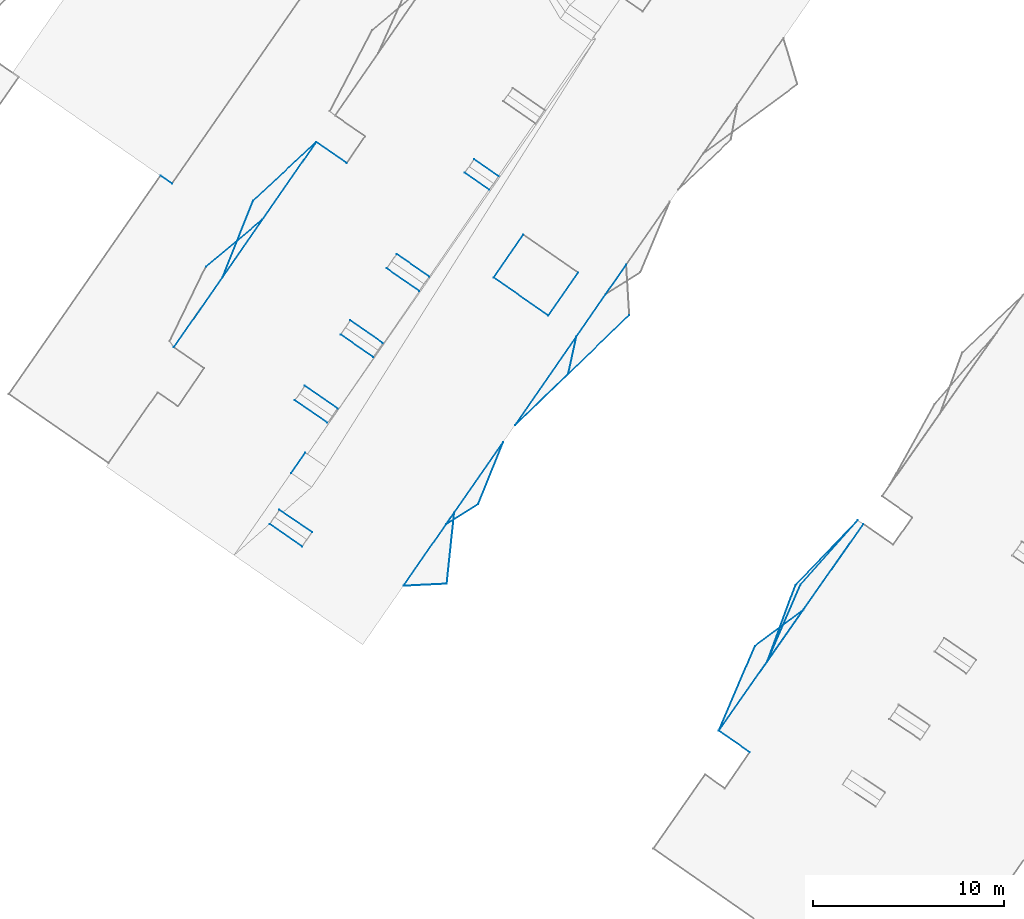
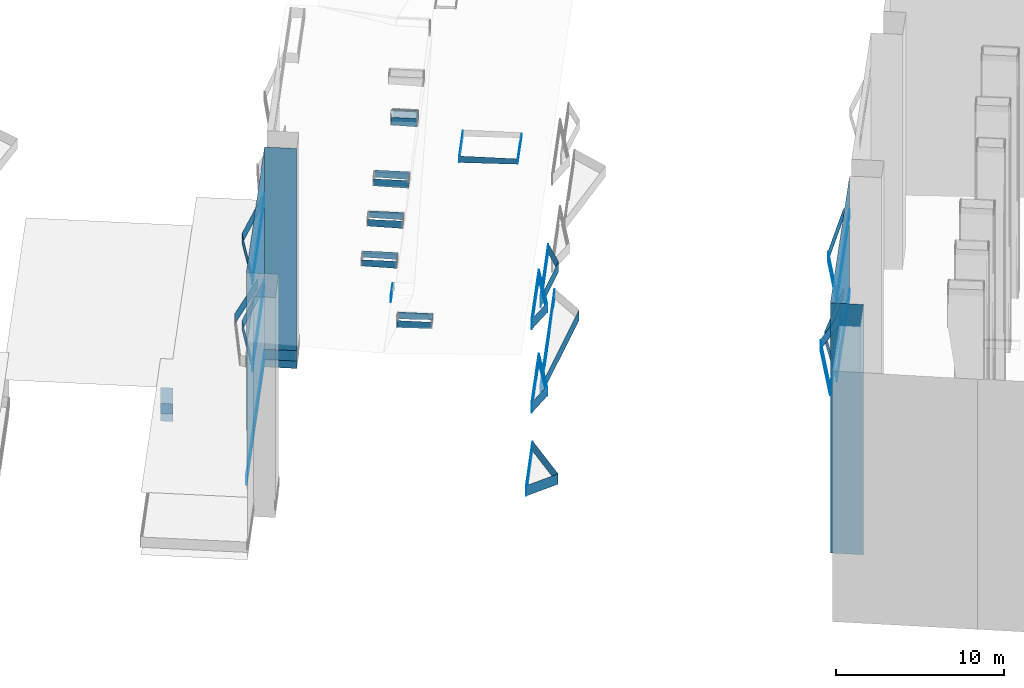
# Not in any storey, part 3 of 136: 90 walls.
"""IFC4 building model written with IfcOpenShell, lengths in metres."""

from ifc_helpers import new_model, entity, si_unit, converted_unit, frame, origin, place, context, subcontext, project, spatial, face_set, surface_model, element, save


model = new_model("IFC4")

# Units and contexts
model_context = context("Model", 3, precision=1e-05, world=origin())
body_context = subcontext(model_context, "Body", "Model", "MODEL_VIEW")
ifc_project = project(units=[converted_unit("PLANEANGLEUNIT", "DEGREE", entity("IfcRatioMeasure", 0.0174532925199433), si_unit("PLANEANGLEUNIT", "RADIAN"), dimensions=[0, 0, 0, 0, 0, 0, 0]), si_unit("AREAUNIT", "SQUARE_METRE"), si_unit("LENGTHUNIT", "METRE")], contexts=[model_context])

# Site, building
site_placement = place(None, origin())
site = spatial("IfcSite", under=ifc_project, at=site_placement, Name="_site")
building_1_placement = place(site_placement, origin())
building_1 = spatial("IfcBuilding", under=site, at=building_1_placement, Name="_building")

# Walls
wall_1_placement = place(building_1_placement, origin())
element("IfcWall", 1, at=wall_1_placement, inside=building_1, Name="Wall", PredefinedType="NOTDEFINED", context=body_context, shape_type="SurfaceModel", body=[
    surface_model("IfcFaceBasedSurfaceModel", [(4.31, 32.83, 47.18), (-0.12, 26.5, 47.18), (-0.12, 26.5, 47.93), (4.31, 32.83, 47.93)], [face_set([[[0, 1, 2, 3]]])]),
])
wall_2_placement = place(building_1_placement, origin())
element("IfcWall", 2, at=wall_2_placement, inside=building_1, Name="Wall", PredefinedType="NOTDEFINED", context=body_context, shape_type="SurfaceModel", body=[
    surface_model("IfcFaceBasedSurfaceModel", [(-0.12, 26.5, 47.18), (1.77, 30.93, 47.18), (1.77, 30.93, 47.93), (-0.12, 26.5, 47.93)], [face_set([[[0, 1, 2, 3]]])]),
])
wall_3_placement = place(building_1_placement, origin())
element("IfcWall", 3, at=wall_3_placement, inside=building_1, Name="Wall", PredefinedType="NOTDEFINED", context=body_context, shape_type="SurfaceModel", body=[
    surface_model("IfcFaceBasedSurfaceModel", [(2.41, 30.12, 45.09), (3.89, 34.12, 45.09), (3.89, 34.12, 45.84), (2.41, 30.12, 45.84)], [face_set([[[0, 1, 2, 3]]])]),
])
wall_4_placement = place(building_1_placement, origin())
element("IfcWall", 4, at=wall_4_placement, inside=building_1, Name="Wall", PredefinedType="NOTDEFINED", context=body_context, shape_type="SurfaceModel", body=[
    surface_model("IfcFaceBasedSurfaceModel", [(7.44, 37.311, 45.09), (2.41, 30.12, 45.09), (2.41, 30.12, 45.84), (7.44, 37.311, 45.84)], [face_set([[[0, 1, 2, 3]]])]),
])
wall_5_placement = place(building_1_placement, origin())
element("IfcWall", 5, at=wall_5_placement, inside=building_1, Name="Wall", PredefinedType="NOTDEFINED", context=body_context, shape_type="SurfaceModel", body=[
    surface_model("IfcFaceBasedSurfaceModel", [(3.89, 34.12, 45.09), (7.15, 37.51, 45.09), (7.15, 37.51, 45.84), (3.89, 34.12, 45.84)], [face_set([[[0, 1, 2, 3]]])]),
])
wall_6_placement = place(building_1_placement, origin())
element("IfcWall", 6, at=wall_6_placement, inside=building_1, Name="Wall", PredefinedType="NOTDEFINED", context=body_context, shape_type="SurfaceModel", body=[
    surface_model("IfcFaceBasedSurfaceModel", [(2.41, 30.12, 45.09), (3.89, 34.12, 45.09), (3.89, 34.12, 45.84), (2.41, 30.12, 45.84)], [face_set([[[0, 1, 2, 3]]])]),
])
wall_7_placement = place(building_1_placement, origin())
element("IfcWall", 7, at=wall_7_placement, inside=building_1, Name="Wall", PredefinedType="NOTDEFINED", context=body_context, shape_type="SurfaceModel", body=[
    surface_model("IfcFaceBasedSurfaceModel", [(7.44, 37.311, 45.09), (2.41, 30.12, 45.09), (2.41, 30.12, 45.84), (7.44, 37.311, 45.84)], [face_set([[[0, 1, 2, 3]]])]),
])
wall_8_placement = place(building_1_placement, origin())
element("IfcWall", 8, at=wall_8_placement, inside=building_1, Name="Wall", PredefinedType="NOTDEFINED", context=body_context, shape_type="SurfaceModel", body=[
    surface_model("IfcFaceBasedSurfaceModel", [(3.89, 34.12, 45.09), (7.15, 37.51, 45.09), (7.15, 37.51, 45.84), (3.89, 34.12, 45.84)], [face_set([[[0, 1, 2, 3]]])]),
])
wall_9_placement = place(building_1_placement, origin())
element("IfcWall", 9, at=wall_9_placement, inside=building_1, Name="Wall", PredefinedType="NOTDEFINED", context=body_context, shape_type="SurfaceModel", body=[
    surface_model("IfcFaceBasedSurfaceModel", [(-0.12, 26.5, 53.93), (7.44, 37.311, 53.93), (7.44, 37.311, 35.839), (-0.12, 26.5, 35.784)], [face_set([[[0, 1, 2, 3]]])]),
])
wall_10_placement = place(building_1_placement, origin())
element("IfcWall", 10, at=wall_10_placement, inside=building_1, Name="Wall", PredefinedType="NOTDEFINED", context=body_context, shape_type="SurfaceModel", body=[
    surface_model("IfcFaceBasedSurfaceModel", [(1.5, 25.37, 53.93), (-0.12, 26.5, 53.93), (-0.12, 26.5, 35.784), (1.5, 25.37, 35.775)], [face_set([[[0, 1, 2, 3]]])]),
])
wall_11_placement = place(building_1_placement, origin())
element("IfcWall", 11, at=wall_11_placement, inside=building_1, Name="Wall", PredefinedType="NOTDEFINED", context=body_context, shape_type="SurfaceModel", body=[
    surface_model("IfcFaceBasedSurfaceModel", [(4.31, 32.83, 47.18), (-0.12, 26.5, 47.18), (-0.12, 26.5, 47.93), (4.31, 32.83, 47.93)], [face_set([[[0, 1, 2, 3]]])]),
])
wall_12_placement = place(building_1_placement, origin())
element("IfcWall", 12, at=wall_12_placement, inside=building_1, Name="Wall", PredefinedType="NOTDEFINED", context=body_context, shape_type="SurfaceModel", body=[
    surface_model("IfcFaceBasedSurfaceModel", [(1.77, 30.93, 47.18), (4.31, 32.83, 47.18), (4.31, 32.83, 47.93), (1.77, 30.93, 47.93)], [face_set([[[0, 1, 2, 3]]])]),
])
wall_13_placement = place(building_1_placement, origin())
element("IfcWall", 13, at=wall_13_placement, inside=building_1, Name="Wall", PredefinedType="NOTDEFINED", context=body_context, shape_type="SurfaceModel", body=[
    surface_model("IfcFaceBasedSurfaceModel", [(-0.12, 26.5, 47.18), (1.77, 30.93, 47.18), (1.77, 30.93, 47.93), (-0.12, 26.5, 47.93)], [face_set([[[0, 1, 2, 3]]])]),
])
wall_14_placement = place(building_1_placement, origin())
element("IfcWall", 14, at=wall_14_placement, inside=building_1, Name="Wall", PredefinedType="NOTDEFINED", context=body_context, shape_type="SurfaceModel", body=[
    surface_model("IfcFaceBasedSurfaceModel", [(1.77, 30.93, 47.18), (4.31, 32.83, 47.18), (4.31, 32.83, 47.93), (1.77, 30.93, 47.93)], [face_set([[[0, 1, 2, 3]]])]),
])
wall_15_placement = place(building_1_placement, origin())
element("IfcWall", 15, at=wall_15_placement, inside=building_1, Name="Wall", PredefinedType="NOTDEFINED", context=body_context, shape_type="SurfaceModel", body=[
    surface_model("IfcFaceBasedSurfaceModel", [(2.41, 30.12, 50.84), (4.15, 34.14, 50.84), (4.15, 34.14, 51.59), (2.41, 30.12, 51.59)], [face_set([[[0, 1, 2, 3]]])]),
])
wall_16_placement = place(building_1_placement, origin())
element("IfcWall", 16, at=wall_16_placement, inside=building_1, Name="Wall", PredefinedType="NOTDEFINED", context=body_context, shape_type="SurfaceModel", body=[
    surface_model("IfcFaceBasedSurfaceModel", [(7.44, 37.311, 50.84), (2.41, 30.12, 50.84), (2.41, 30.12, 51.59), (7.44, 37.311, 51.59)], [face_set([[[0, 1, 2, 3]]])]),
])
wall_17_placement = place(building_1_placement, origin())
element("IfcWall", 17, at=wall_17_placement, inside=building_1, Name="Wall", PredefinedType="NOTDEFINED", context=body_context, shape_type="SurfaceModel", body=[
    surface_model("IfcFaceBasedSurfaceModel", [(4.15, 34.14, 50.84), (7.15, 37.51, 50.84), (7.15, 37.51, 51.59), (4.15, 34.14, 51.59)], [face_set([[[0, 1, 2, 3]]])]),
])
wall_18_placement = place(building_1_placement, origin())
element("IfcWall", 18, at=wall_18_placement, inside=building_1, Name="Wall", PredefinedType="NOTDEFINED", context=body_context, shape_type="SurfaceModel", body=[
    surface_model("IfcFaceBasedSurfaceModel", [(2.41, 30.12, 50.84), (4.15, 34.14, 50.84), (4.15, 34.14, 51.59), (2.41, 30.12, 51.59)], [face_set([[[0, 1, 2, 3]]])]),
])
wall_19_placement = place(building_1_placement, origin())
element("IfcWall", 19, at=wall_19_placement, inside=building_1, Name="Wall", PredefinedType="NOTDEFINED", context=body_context, shape_type="SurfaceModel", body=[
    surface_model("IfcFaceBasedSurfaceModel", [(7.44, 37.311, 50.84), (2.41, 30.12, 50.84), (2.41, 30.12, 51.59), (7.44, 37.311, 51.59)], [face_set([[[0, 1, 2, 3]]])]),
])
wall_20_placement = place(building_1_placement, origin())
element("IfcWall", 20, at=wall_20_placement, inside=building_1, Name="Wall", PredefinedType="NOTDEFINED", context=body_context, shape_type="SurfaceModel", body=[
    surface_model("IfcFaceBasedSurfaceModel", [(4.15, 34.14, 50.84), (7.15, 37.51, 50.84), (7.15, 37.51, 51.59), (4.15, 34.14, 51.59)], [face_set([[[0, 1, 2, 3]]])]),
])

# Building
building_2_placement = place(site_placement, origin())
building_2 = spatial("IfcBuilding", under=site, at=building_2_placement, Name="_building")

# Walls
wall_21_placement = place(building_2_placement, origin())
element("IfcWall", 21, at=wall_21_placement, inside=building_2, Name="Wall", PredefinedType="NOTDEFINED", context=body_context, shape_type="SurfaceModel", body=[
    surface_model("IfcFaceBasedSurfaceModel", [(-14.38, 37.3, 50.44), (-13.96, 37.91, 50.44), (-13.96, 37.91, 51.19), (-14.38, 37.3, 51.19)], [face_set([[[0, 1, 2, 3]]])]),
])
wall_22_placement = place(building_2_placement, origin())
element("IfcWall", 22, at=wall_22_placement, inside=building_2, Name="Wall", PredefinedType="NOTDEFINED", context=body_context, shape_type="SurfaceModel", body=[
    surface_model("IfcFaceBasedSurfaceModel", [(-12.71, 38.351, 50.44), (-14.38, 37.3, 50.44), (-14.38, 37.3, 51.19), (-12.71, 38.351, 51.19)], [face_set([[[0, 1, 2, 3]]])]),
])
wall_23_placement = place(building_2_placement, origin())
element("IfcWall", 23, at=wall_23_placement, inside=building_2, Name="Wall", PredefinedType="NOTDEFINED", context=body_context, shape_type="SurfaceModel", body=[
    surface_model("IfcFaceBasedSurfaceModel", [(-11.4, 41.59, 50.44), (-12.71, 38.351, 50.44), (-12.71, 38.351, 51.19), (-11.4, 41.59, 51.19)], [face_set([[[0, 1, 2, 3]]])]),
])
wall_24_placement = place(building_2_placement, origin())
element("IfcWall", 24, at=wall_24_placement, inside=building_2, Name="Wall", PredefinedType="NOTDEFINED", context=body_context, shape_type="SurfaceModel", body=[
    surface_model("IfcFaceBasedSurfaceModel", [(-14.38, 37.3, 50.44), (-13.96, 37.91, 50.44), (-13.96, 37.91, 51.19), (-14.38, 37.3, 51.19)], [face_set([[[0, 1, 2, 3]]])]),
])
wall_25_placement = place(building_2_placement, origin())
element("IfcWall", 25, at=wall_25_placement, inside=building_2, Name="Wall", PredefinedType="NOTDEFINED", context=body_context, shape_type="SurfaceModel", body=[
    surface_model("IfcFaceBasedSurfaceModel", [(-12.71, 38.351, 50.44), (-14.38, 37.3, 50.44), (-14.38, 37.3, 51.19), (-12.71, 38.351, 51.19)], [face_set([[[0, 1, 2, 3]]])]),
])
wall_26_placement = place(building_2_placement, origin())
element("IfcWall", 26, at=wall_26_placement, inside=building_2, Name="Wall", PredefinedType="NOTDEFINED", context=body_context, shape_type="SurfaceModel", body=[
    surface_model("IfcFaceBasedSurfaceModel", [(-11.4, 41.59, 50.44), (-12.71, 38.351, 50.44), (-12.71, 38.351, 51.19), (-11.4, 41.59, 51.19)], [face_set([[[0, 1, 2, 3]]])]),
])
wall_27_placement = place(building_2_placement, origin())
element("IfcWall", 27, at=wall_27_placement, inside=building_2, Name="Wall", PredefinedType="NOTDEFINED", context=body_context, shape_type="SurfaceModel", body=[
    surface_model("IfcFaceBasedSurfaceModel", [(-13.96, 37.91, 50.44), (-11.4, 41.59, 50.44), (-11.4, 41.59, 51.19), (-13.96, 37.91, 51.19)], [face_set([[[0, 1, 2, 3]]])]),
])
wall_28_placement = place(building_2_placement, origin())
element("IfcWall", 28, at=wall_28_placement, inside=building_2, Name="Wall", PredefinedType="NOTDEFINED", context=body_context, shape_type="SurfaceModel", body=[
    surface_model("IfcFaceBasedSurfaceModel", [(-16.61, 34.08, 41.1), (-13.96, 37.91, 41.1), (-13.96, 37.91, 41.85), (-16.61, 34.08, 41.85)], [face_set([[[0, 1, 2, 3]]])]),
])
wall_29_placement = place(building_2_placement, origin())
element("IfcWall", 29, at=wall_29_placement, inside=building_2, Name="Wall", PredefinedType="NOTDEFINED", context=body_context, shape_type="SurfaceModel", body=[
    surface_model("IfcFaceBasedSurfaceModel", [(-14.35, 34.19, 41.1), (-16.61, 34.08, 41.1), (-16.61, 34.08, 41.85), (-14.35, 34.19, 41.85)], [face_set([[[0, 1, 2, 3]]])]),
])
wall_30_placement = place(building_2_placement, origin())
element("IfcWall", 30, at=wall_30_placement, inside=building_2, Name="Wall", PredefinedType="NOTDEFINED", context=body_context, shape_type="SurfaceModel", body=[
    surface_model("IfcFaceBasedSurfaceModel", [(-13.96, 37.91, 41.1), (-14.35, 34.19, 41.1), (-14.35, 34.19, 41.85), (-13.96, 37.91, 41.85)], [face_set([[[0, 1, 2, 3]]])]),
])
wall_31_placement = place(building_2_placement, origin())
element("IfcWall", 31, at=wall_31_placement, inside=building_2, Name="Wall", PredefinedType="NOTDEFINED", context=body_context, shape_type="SurfaceModel", body=[
    surface_model("IfcFaceBasedSurfaceModel", [(-16.61, 34.08, 41.1), (-13.96, 37.91, 41.1), (-13.96, 37.91, 41.85), (-16.61, 34.08, 41.85)], [face_set([[[0, 1, 2, 3]]])]),
])
wall_32_placement = place(building_2_placement, origin())
element("IfcWall", 32, at=wall_32_placement, inside=building_2, Name="Wall", PredefinedType="NOTDEFINED", context=body_context, shape_type="SurfaceModel", body=[
    surface_model("IfcFaceBasedSurfaceModel", [(-14.35, 34.19, 41.1), (-16.61, 34.08, 41.1), (-16.61, 34.08, 41.85), (-14.35, 34.19, 41.85)], [face_set([[[0, 1, 2, 3]]])]),
])
wall_33_placement = place(building_2_placement, origin())
element("IfcWall", 33, at=wall_33_placement, inside=building_2, Name="Wall", PredefinedType="NOTDEFINED", context=body_context, shape_type="SurfaceModel", body=[
    surface_model("IfcFaceBasedSurfaceModel", [(-13.96, 37.91, 41.1), (-14.35, 34.19, 41.1), (-14.35, 34.19, 41.85), (-13.96, 37.91, 41.85)], [face_set([[[0, 1, 2, 3]]])]),
])
wall_34_placement = place(building_2_placement, origin())
element("IfcWall", 34, at=wall_34_placement, inside=building_2, Name="Wall", PredefinedType="NOTDEFINED", context=body_context, shape_type="SurfaceModel", body=[
    surface_model("IfcFaceBasedSurfaceModel", [(-8.0, 45.16, 47.62), (-10.77, 42.49, 47.62), (-10.77, 42.49, 48.37), (-8.0, 45.16, 48.37)], [face_set([[[0, 1, 2, 3]]])]),
])
wall_35_placement = place(building_2_placement, origin())
element("IfcWall", 35, at=wall_35_placement, inside=building_2, Name="Wall", PredefinedType="NOTDEFINED", context=body_context, shape_type="SurfaceModel", body=[
    surface_model("IfcFaceBasedSurfaceModel", [(-7.57, 47.11, 47.62), (-8.0, 45.16, 47.62), (-8.0, 45.16, 48.37), (-7.57, 47.11, 48.37)], [face_set([[[0, 1, 2, 3]]])]),
])
wall_36_placement = place(building_2_placement, origin())
element("IfcWall", 36, at=wall_36_placement, inside=building_2, Name="Wall", PredefinedType="NOTDEFINED", context=body_context, shape_type="SurfaceModel", body=[
    surface_model("IfcFaceBasedSurfaceModel", [(-10.77, 42.49, 47.62), (-7.57, 47.11, 47.62), (-7.57, 47.11, 48.37), (-10.77, 42.49, 48.37)], [face_set([[[0, 1, 2, 3]]])]),
])
wall_37_placement = place(building_2_placement, origin())
element("IfcWall", 37, at=wall_37_placement, inside=building_2, Name="Wall", PredefinedType="NOTDEFINED", context=body_context, shape_type="SurfaceModel", body=[
    surface_model("IfcFaceBasedSurfaceModel", [(-8.0, 45.16, 47.62), (-10.77, 42.49, 47.62), (-10.77, 42.49, 48.37), (-8.0, 45.16, 48.37)], [face_set([[[0, 1, 2, 3]]])]),
])
wall_38_placement = place(building_2_placement, origin())
element("IfcWall", 38, at=wall_38_placement, inside=building_2, Name="Wall", PredefinedType="NOTDEFINED", context=body_context, shape_type="SurfaceModel", body=[
    surface_model("IfcFaceBasedSurfaceModel", [(-7.57, 47.11, 47.62), (-8.0, 45.16, 47.62), (-8.0, 45.16, 48.37), (-7.57, 47.11, 48.37)], [face_set([[[0, 1, 2, 3]]])]),
])
wall_39_placement = place(building_2_placement, origin())
element("IfcWall", 39, at=wall_39_placement, inside=building_2, Name="Wall", PredefinedType="NOTDEFINED", context=body_context, shape_type="SurfaceModel", body=[
    surface_model("IfcFaceBasedSurfaceModel", [(-21.17, 57.29, 43.65), (-26.07, 50.23, 43.65), (-26.07, 50.23, 44.4), (-21.17, 57.29, 44.4)], [face_set([[[0, 1, 2, 3]]])]),
])
wall_40_placement = place(building_2_placement, origin())
element("IfcWall", 40, at=wall_40_placement, inside=building_2, Name="Wall", PredefinedType="NOTDEFINED", context=body_context, shape_type="SurfaceModel", body=[
    surface_model("IfcFaceBasedSurfaceModel", [(-13.96, 37.91, 50.44), (-11.4, 41.59, 50.44), (-11.4, 41.59, 51.19), (-13.96, 37.91, 51.19)], [face_set([[[0, 1, 2, 3]]])]),
])
wall_41_placement = place(building_2_placement, origin())
element("IfcWall", 41, at=wall_41_placement, inside=building_2, Name="Wall", PredefinedType="NOTDEFINED", context=body_context, shape_type="SurfaceModel", body=[
    surface_model("IfcFaceBasedSurfaceModel", [(-24.48, 54.22, 43.65), (-21.17, 57.29, 43.65), (-21.17, 57.29, 44.4), (-24.48, 54.22, 44.4)], [face_set([[[0, 1, 2, 3]]])]),
])
wall_42_placement = place(building_2_placement, origin())
element("IfcWall", 42, at=wall_42_placement, inside=building_2, Name="Wall", PredefinedType="NOTDEFINED", context=body_context, shape_type="SurfaceModel", body=[
    surface_model("IfcFaceBasedSurfaceModel", [(-12.92, 56.38, 54.35), (-11.64, 55.49, 54.35), (-11.64, 55.49, 53.737), (-12.92, 56.38, 53.779)], [face_set([[[0, 1, 2, 3]]])]),
])
wall_43_placement = place(building_2_placement, origin())
element("IfcWall", 43, at=wall_43_placement, inside=building_2, Name="Wall", PredefinedType="NOTDEFINED", context=body_context, shape_type="SurfaceModel", body=[
    surface_model("IfcFaceBasedSurfaceModel", [(-23.1, 38.05, 54.32), (-21.4, 36.88, 54.32), (-21.4, 36.88, 53.856), (-23.1, 38.05, 53.808)], [face_set([[[0, 1, 2, 3]]])]),
])
wall_44_placement = place(building_2_placement, origin())
element("IfcWall", 44, at=wall_44_placement, inside=building_2, Name="Wall", PredefinedType="NOTDEFINED", context=body_context, shape_type="SurfaceModel", body=[
    surface_model("IfcFaceBasedSurfaceModel", [(-19.39, 47.96, 54.35), (-17.69, 46.771, 54.35), (-17.69, 46.771, 53.803), (-19.39, 47.96, 53.858)], [face_set([[[0, 1, 2, 3]]])]),
])
wall_45_placement = place(building_2_placement, origin())
element("IfcWall", 45, at=wall_45_placement, inside=building_2, Name="Wall", PredefinedType="NOTDEFINED", context=body_context, shape_type="SurfaceModel", body=[
    surface_model("IfcFaceBasedSurfaceModel", [(-29.32, 55.521, 38.52), (-28.72, 55.11, 38.52), (-28.72, 55.11, 39.27), (-29.32, 55.521, 39.27)], [face_set([[[0, 1, 2, 3]]])]),
])
wall_46_placement = place(building_2_placement, origin())
element("IfcWall", 46, at=wall_46_placement, inside=building_2, Name="Wall", PredefinedType="NOTDEFINED", context=body_context, shape_type="SurfaceModel", body=[
    surface_model("IfcFaceBasedSurfaceModel", [(-16.97, 51.43, 54.35), (-15.27, 50.25, 54.35), (-15.27, 50.25, 53.776), (-16.97, 51.43, 53.832)], [face_set([[[0, 1, 2, 3]]])]),
])
wall_47_placement = place(building_2_placement, origin())
element("IfcWall", 47, at=wall_47_placement, inside=building_2, Name="Wall", PredefinedType="NOTDEFINED", context=body_context, shape_type="SurfaceModel", body=[
    surface_model("IfcFaceBasedSurfaceModel", [(-21.77, 44.54, 54.35), (-20.06, 43.351, 54.35), (-20.06, 43.351, 53.828), (-21.77, 44.54, 53.884)], [face_set([[[0, 1, 2, 3]]])]),
])
wall_48_placement = place(building_2_placement, origin())
element("IfcWall", 48, at=wall_48_placement, inside=building_2, Name="Wall", PredefinedType="NOTDEFINED", context=body_context, shape_type="SurfaceModel", body=[
    surface_model("IfcFaceBasedSurfaceModel", [(-26.07, 50.23, 43.65), (-24.48, 54.22, 43.65), (-24.48, 54.22, 44.4), (-26.07, 50.23, 44.4)], [face_set([[[0, 1, 2, 3]]])]),
])
wall_49_placement = place(building_2_placement, origin())
element("IfcWall", 49, at=wall_49_placement, inside=building_2, Name="Wall", PredefinedType="NOTDEFINED", context=body_context, shape_type="SurfaceModel", body=[
    surface_model("IfcFaceBasedSurfaceModel", [(-21.17, 57.29, 43.65), (-26.07, 50.23, 43.65), (-26.07, 50.23, 44.4), (-21.17, 57.29, 44.4)], [face_set([[[0, 1, 2, 3]]])]),
])
wall_50_placement = place(building_2_placement, origin())
element("IfcWall", 50, at=wall_50_placement, inside=building_2, Name="Wall", PredefinedType="NOTDEFINED", context=body_context, shape_type="SurfaceModel", body=[
    surface_model("IfcFaceBasedSurfaceModel", [(-24.48, 54.22, 43.65), (-21.17, 57.29, 43.65), (-21.17, 57.29, 44.4), (-24.48, 54.22, 44.4)], [face_set([[[0, 1, 2, 3]]])]),
])
wall_51_placement = place(building_2_placement, origin())
element("IfcWall", 51, at=wall_51_placement, inside=building_2, Name="Wall", PredefinedType="NOTDEFINED", context=body_context, shape_type="SurfaceModel", body=[
    surface_model("IfcFaceBasedSurfaceModel", [(-26.07, 50.23, 43.65), (-24.48, 54.22, 43.65), (-24.48, 54.22, 44.4), (-26.07, 50.23, 44.4)], [face_set([[[0, 1, 2, 3]]])]),
])
wall_52_placement = place(building_2_placement, origin())
element("IfcWall", 52, at=wall_52_placement, inside=building_2, Name="Wall", PredefinedType="NOTDEFINED", context=body_context, shape_type="SurfaceModel", body=[
    surface_model("IfcFaceBasedSurfaceModel", [(-12.13, 54.79, 54.35), (-13.41, 55.68, 54.35), (-13.41, 55.68, 53.784), (-12.13, 54.79, 53.742)], [face_set([[[0, 1, 2, 3]]])]),
])
wall_53_placement = place(building_2_placement, origin())
element("IfcWall", 53, at=wall_53_placement, inside=building_2, Name="Wall", PredefinedType="NOTDEFINED", context=body_context, shape_type="SurfaceModel", body=[
    surface_model("IfcFaceBasedSurfaceModel", [(-9.04, 48.21, 54.34), (-11.9, 50.2, 54.34), (-11.9, 50.2, 53.862), (-9.04, 48.21, 53.944)], [face_set([[[0, 1, 2, 3]]])]),
])
wall_54_placement = place(building_2_placement, origin())
element("IfcWall", 54, at=wall_54_placement, inside=building_2, Name="Wall", PredefinedType="NOTDEFINED", context=body_context, shape_type="SurfaceModel", body=[
    surface_model("IfcFaceBasedSurfaceModel", [(-13.96, 37.91, 44.38), (-11.4, 41.59, 44.38), (-11.4, 41.59, 45.13), (-13.96, 37.91, 45.13)], [face_set([[[0, 1, 2, 3]]])]),
])
wall_55_placement = place(building_2_placement, origin())
element("IfcWall", 55, at=wall_55_placement, inside=building_2, Name="Wall", PredefinedType="NOTDEFINED", context=body_context, shape_type="SurfaceModel", body=[
    surface_model("IfcFaceBasedSurfaceModel", [(-18.2, 46.04, 54.35), (-19.9, 47.22, 54.35), (-19.9, 47.22, 53.864), (-18.2, 46.04, 53.808)], [face_set([[[0, 1, 2, 3]]])]),
])
wall_56_placement = place(building_2_placement, origin())
element("IfcWall", 56, at=wall_56_placement, inside=building_2, Name="Wall", PredefinedType="NOTDEFINED", context=body_context, shape_type="SurfaceModel", body=[
    surface_model("IfcFaceBasedSurfaceModel", [(-7.48, 50.45, 54.34), (-9.04, 48.21, 54.34), (-9.04, 48.21, 53.944), (-7.48, 50.45, 53.945)], [face_set([[[0, 1, 2, 3]]])]),
])
wall_57_placement = place(building_2_placement, origin())
element("IfcWall", 57, at=wall_57_placement, inside=building_2, Name="Wall", PredefinedType="NOTDEFINED", context=body_context, shape_type="SurfaceModel", body=[
    surface_model("IfcFaceBasedSurfaceModel", [(-22.491, 39.981, 54.17), (-21.75, 41.05, 54.17), (-21.75, 41.05, 53.59), (-22.491, 39.981, 53.59)], [face_set([[[0, 1, 2, 3]]])]),
])
wall_58_placement = place(building_2_placement, origin())
element("IfcWall", 58, at=wall_58_placement, inside=building_2, Name="Wall", PredefinedType="NOTDEFINED", context=body_context, shape_type="SurfaceModel", body=[
    surface_model("IfcFaceBasedSurfaceModel", [(-14.38, 37.3, 44.38), (-13.96, 37.91, 44.38), (-13.96, 37.91, 45.13), (-14.38, 37.3, 45.13)], [face_set([[[0, 1, 2, 3]]])]),
])
wall_59_placement = place(building_2_placement, origin())
element("IfcWall", 59, at=wall_59_placement, inside=building_2, Name="Wall", PredefinedType="NOTDEFINED", context=body_context, shape_type="SurfaceModel", body=[
    surface_model("IfcFaceBasedSurfaceModel", [(-12.71, 38.351, 44.38), (-14.38, 37.3, 44.38), (-14.38, 37.3, 45.13), (-12.71, 38.351, 45.13)], [face_set([[[0, 1, 2, 3]]])]),
])
wall_60_placement = place(building_2_placement, origin())
element("IfcWall", 60, at=wall_60_placement, inside=building_2, Name="Wall", PredefinedType="NOTDEFINED", context=body_context, shape_type="SurfaceModel", body=[
    surface_model("IfcFaceBasedSurfaceModel", [(-10.77, 42.49, 47.62), (-7.57, 47.11, 47.62), (-7.57, 47.11, 48.37), (-10.77, 42.49, 48.37)], [face_set([[[0, 1, 2, 3]]])]),
])
wall_61_placement = place(building_2_placement, origin())
element("IfcWall", 61, at=wall_61_placement, inside=building_2, Name="Wall", PredefinedType="NOTDEFINED", context=body_context, shape_type="SurfaceModel", body=[
    surface_model("IfcFaceBasedSurfaceModel", [(-11.4, 41.59, 44.38), (-12.71, 38.351, 44.38), (-12.71, 38.351, 45.13), (-11.4, 41.59, 45.13)], [face_set([[[0, 1, 2, 3]]])]),
])
wall_62_placement = place(building_2_placement, origin())
element("IfcWall", 62, at=wall_62_placement, inside=building_2, Name="Wall", PredefinedType="NOTDEFINED", context=body_context, shape_type="SurfaceModel", body=[
    surface_model("IfcFaceBasedSurfaceModel", [(-14.38, 37.3, 44.38), (-13.96, 37.91, 44.38), (-13.96, 37.91, 45.13), (-14.38, 37.3, 45.13)], [face_set([[[0, 1, 2, 3]]])]),
])
wall_63_placement = place(building_2_placement, origin())
element("IfcWall", 63, at=wall_63_placement, inside=building_2, Name="Wall", PredefinedType="NOTDEFINED", context=body_context, shape_type="SurfaceModel", body=[
    surface_model("IfcFaceBasedSurfaceModel", [(-12.71, 38.351, 44.38), (-14.38, 37.3, 44.38), (-14.38, 37.3, 45.13), (-12.71, 38.351, 45.13)], [face_set([[[0, 1, 2, 3]]])]),
])
wall_64_placement = place(building_2_placement, origin())
element("IfcWall", 64, at=wall_64_placement, inside=building_2, Name="Wall", PredefinedType="NOTDEFINED", context=body_context, shape_type="SurfaceModel", body=[
    surface_model("IfcFaceBasedSurfaceModel", [(-11.4, 41.59, 44.38), (-12.71, 38.351, 44.38), (-12.71, 38.351, 45.13), (-11.4, 41.59, 45.13)], [face_set([[[0, 1, 2, 3]]])]),
])
wall_65_placement = place(building_2_placement, origin())
element("IfcWall", 65, at=wall_65_placement, inside=building_2, Name="Wall", PredefinedType="NOTDEFINED", context=body_context, shape_type="SurfaceModel", body=[
    surface_model("IfcFaceBasedSurfaceModel", [(-13.96, 37.91, 44.38), (-11.4, 41.59, 44.38), (-11.4, 41.59, 45.13), (-13.96, 37.91, 45.13)], [face_set([[[0, 1, 2, 3]]])]),
])
wall_66_placement = place(building_2_placement, origin())
element("IfcWall", 66, at=wall_66_placement, inside=building_2, Name="Wall", PredefinedType="NOTDEFINED", context=body_context, shape_type="SurfaceModel", body=[
    surface_model("IfcFaceBasedSurfaceModel", [(-28.72, 55.11, 40.43), (-29.32, 55.521, 40.43), (-29.32, 55.521, 37.98), (-28.72, 55.11, 37.98)], [face_set([[[0, 1, 2, 3]]])]),
])
wall_67_placement = place(building_2_placement, origin())
element("IfcWall", 67, at=wall_67_placement, inside=building_2, Name="Wall", PredefinedType="NOTDEFINED", context=body_context, shape_type="SurfaceModel", body=[
    surface_model("IfcFaceBasedSurfaceModel", [(-15.8, 49.5, 54.35), (-17.5, 50.68, 54.35), (-17.5, 50.68, 53.838), (-15.8, 49.5, 53.782)], [face_set([[[0, 1, 2, 3]]])]),
])
wall_68_placement = place(building_2_placement, origin())
element("IfcWall", 68, at=wall_68_placement, inside=building_2, Name="Wall", PredefinedType="NOTDEFINED", context=body_context, shape_type="SurfaceModel", body=[
    surface_model("IfcFaceBasedSurfaceModel", [(-11.9, 50.2, 54.34), (-10.35, 52.44, 54.34), (-10.35, 52.44, 53.862), (-11.9, 50.2, 53.862)], [face_set([[[0, 1, 2, 3]]])]),
])
wall_69_placement = place(building_2_placement, origin())
element("IfcWall", 69, at=wall_69_placement, inside=building_2, Name="Wall", PredefinedType="NOTDEFINED", context=body_context, shape_type="SurfaceModel", body=[
    surface_model("IfcFaceBasedSurfaceModel", [(-10.77, 42.49, 41.14), (-7.57, 47.11, 41.14), (-7.57, 47.11, 41.89), (-10.77, 42.49, 41.89)], [face_set([[[0, 1, 2, 3]]])]),
])
wall_70_placement = place(building_2_placement, origin())
element("IfcWall", 70, at=wall_70_placement, inside=building_2, Name="Wall", PredefinedType="NOTDEFINED", context=body_context, shape_type="SurfaceModel", body=[
    surface_model("IfcFaceBasedSurfaceModel", [(-4.8, 48.24, 41.14), (-10.77, 42.49, 41.14), (-10.77, 42.49, 41.89), (-4.8, 48.24, 41.89)], [face_set([[[0, 1, 2, 3]]])]),
])
wall_71_placement = place(building_2_placement, origin())
element("IfcWall", 71, at=wall_71_placement, inside=building_2, Name="Wall", PredefinedType="NOTDEFINED", context=body_context, shape_type="SurfaceModel", body=[
    surface_model("IfcFaceBasedSurfaceModel", [(-7.57, 47.11, 41.14), (-4.96, 50.88, 41.14), (-4.96, 50.88, 41.89), (-7.57, 47.11, 41.89)], [face_set([[[0, 1, 2, 3]]])]),
])
wall_72_placement = place(building_2_placement, origin())
element("IfcWall", 72, at=wall_72_placement, inside=building_2, Name="Wall", PredefinedType="NOTDEFINED", context=body_context, shape_type="SurfaceModel", body=[
    surface_model("IfcFaceBasedSurfaceModel", [(-10.77, 42.49, 41.14), (-7.57, 47.11, 41.14), (-7.57, 47.11, 41.89), (-10.77, 42.49, 41.89)], [face_set([[[0, 1, 2, 3]]])]),
])
wall_73_placement = place(building_2_placement, origin())
element("IfcWall", 73, at=wall_73_placement, inside=building_2, Name="Wall", PredefinedType="NOTDEFINED", context=body_context, shape_type="SurfaceModel", body=[
    surface_model("IfcFaceBasedSurfaceModel", [(-4.8, 48.24, 41.14), (-10.77, 42.49, 41.14), (-10.77, 42.49, 41.89), (-4.8, 48.24, 41.89)], [face_set([[[0, 1, 2, 3]]])]),
])
wall_74_placement = place(building_2_placement, origin())
element("IfcWall", 74, at=wall_74_placement, inside=building_2, Name="Wall", PredefinedType="NOTDEFINED", context=body_context, shape_type="SurfaceModel", body=[
    surface_model("IfcFaceBasedSurfaceModel", [(-21.17, 57.29, 53.94), (-19.58, 56.19, 53.94), (-19.58, 56.19, 37.98), (-21.17, 57.29, 37.98)], [face_set([[[0, 1, 2, 3]]])]),
])
wall_75_placement = place(building_2_placement, origin())
element("IfcWall", 75, at=wall_75_placement, inside=building_2, Name="Wall", PredefinedType="NOTDEFINED", context=body_context, shape_type="SurfaceModel", body=[
    surface_model("IfcFaceBasedSurfaceModel", [(-28.62, 46.55, 53.94), (-21.17, 57.29, 53.94), (-21.17, 57.29, 37.98), (-28.62, 46.55, 37.98)], [face_set([[[0, 1, 2, 3]]])]),
])
wall_76_placement = place(building_2_placement, origin())
element("IfcWall", 76, at=wall_76_placement, inside=building_2, Name="Wall", PredefinedType="NOTDEFINED", context=body_context, shape_type="SurfaceModel", body=[
    surface_model("IfcFaceBasedSurfaceModel", [(-21.92, 36.13, 54.32), (-23.61, 37.311, 54.32), (-23.61, 37.311, 53.808), (-21.92, 36.13, 53.856)], [face_set([[[0, 1, 2, 3]]])]),
])
wall_77_placement = place(building_2_placement, origin())
element("IfcWall", 77, at=wall_77_placement, inside=building_2, Name="Wall", PredefinedType="NOTDEFINED", context=body_context, shape_type="SurfaceModel", body=[
    surface_model("IfcFaceBasedSurfaceModel", [(-21.17, 57.29, 38.52), (-28.62, 46.55, 38.52), (-28.62, 46.55, 39.27), (-21.17, 57.29, 39.27)], [face_set([[[0, 1, 2, 3]]])]),
])
wall_78_placement = place(building_2_placement, origin())
element("IfcWall", 78, at=wall_78_placement, inside=building_2, Name="Wall", PredefinedType="NOTDEFINED", context=body_context, shape_type="SurfaceModel", body=[
    surface_model("IfcFaceBasedSurfaceModel", [(-19.58, 56.19, 38.52), (-21.17, 57.29, 38.52), (-21.17, 57.29, 39.27), (-19.58, 56.19, 39.27)], [face_set([[[0, 1, 2, 3]]])]),
])
wall_79_placement = place(building_2_placement, origin())
element("IfcWall", 79, at=wall_79_placement, inside=building_2, Name="Wall", PredefinedType="NOTDEFINED", context=body_context, shape_type="SurfaceModel", body=[
    surface_model("IfcFaceBasedSurfaceModel", [(-24.48, 54.22, 49.95), (-21.17, 57.29, 49.95), (-21.17, 57.29, 50.7), (-24.48, 54.22, 50.7)], [face_set([[[0, 1, 2, 3]]])]),
])
wall_80_placement = place(building_2_placement, origin())
element("IfcWall", 80, at=wall_80_placement, inside=building_2, Name="Wall", PredefinedType="NOTDEFINED", context=body_context, shape_type="SurfaceModel", body=[
    surface_model("IfcFaceBasedSurfaceModel", [(-26.07, 50.23, 49.95), (-24.48, 54.22, 49.95), (-24.48, 54.22, 50.7), (-26.07, 50.23, 50.7)], [face_set([[[0, 1, 2, 3]]])]),
])
wall_81_placement = place(building_2_placement, origin())
element("IfcWall", 81, at=wall_81_placement, inside=building_2, Name="Wall", PredefinedType="NOTDEFINED", context=body_context, shape_type="SurfaceModel", body=[
    surface_model("IfcFaceBasedSurfaceModel", [(-21.17, 57.29, 49.95), (-26.07, 50.23, 49.95), (-26.07, 50.23, 50.7), (-21.17, 57.29, 50.7)], [face_set([[[0, 1, 2, 3]]])]),
])
wall_82_placement = place(building_2_placement, origin())
element("IfcWall", 82, at=wall_82_placement, inside=building_2, Name="Wall", PredefinedType="NOTDEFINED", context=body_context, shape_type="SurfaceModel", body=[
    surface_model("IfcFaceBasedSurfaceModel", [(-24.48, 54.22, 49.95), (-21.17, 57.29, 49.95), (-21.17, 57.29, 50.7), (-24.48, 54.22, 50.7)], [face_set([[[0, 1, 2, 3]]])]),
])
wall_83_placement = place(building_2_placement, origin())
element("IfcWall", 83, at=wall_83_placement, inside=building_2, Name="Wall", PredefinedType="NOTDEFINED", context=body_context, shape_type="SurfaceModel", body=[
    surface_model("IfcFaceBasedSurfaceModel", [(-26.07, 50.23, 49.95), (-24.48, 54.22, 49.95), (-24.48, 54.22, 50.7), (-26.07, 50.23, 50.7)], [face_set([[[0, 1, 2, 3]]])]),
])
wall_84_placement = place(building_2_placement, origin())
element("IfcWall", 84, at=wall_84_placement, inside=building_2, Name="Wall", PredefinedType="NOTDEFINED", context=body_context, shape_type="SurfaceModel", body=[
    surface_model("IfcFaceBasedSurfaceModel", [(-21.17, 57.29, 49.95), (-26.07, 50.23, 49.95), (-26.07, 50.23, 50.7), (-21.17, 57.29, 50.7)], [face_set([[[0, 1, 2, 3]]])]),
])
wall_85_placement = place(building_2_placement, origin())
element("IfcWall", 85, at=wall_85_placement, inside=building_2, Name="Wall", PredefinedType="NOTDEFINED", context=body_context, shape_type="SurfaceModel", body=[
    surface_model("IfcFaceBasedSurfaceModel", [(-19.58, 56.19, 38.52), (-21.17, 57.29, 38.52), (-21.17, 57.29, 39.27), (-19.58, 56.19, 39.27)], [face_set([[[0, 1, 2, 3]]])]),
])
wall_86_placement = place(building_2_placement, origin())
element("IfcWall", 86, at=wall_86_placement, inside=building_2, Name="Wall", PredefinedType="NOTDEFINED", context=body_context, shape_type="SurfaceModel", body=[
    surface_model("IfcFaceBasedSurfaceModel", [(-21.17, 57.29, 38.52), (-28.62, 46.55, 38.52), (-28.62, 46.55, 39.27), (-21.17, 57.29, 39.27)], [face_set([[[0, 1, 2, 3]]])]),
])
wall_87_placement = place(building_2_placement, origin())
element("IfcWall", 87, at=wall_87_placement, inside=building_2, Name="Wall", PredefinedType="NOTDEFINED", context=body_context, shape_type="SurfaceModel", body=[
    surface_model("IfcFaceBasedSurfaceModel", [(-20.59, 42.601, 54.35), (-22.3, 43.78, 54.35), (-22.3, 43.78, 53.89), (-20.59, 42.601, 53.834)], [face_set([[[0, 1, 2, 3]]])]),
])
for number, where, name in (
    (88, (0.0, 0.0, 0.0), "Wall"),
    (89, (0.0, 0.0, 0.0), "Wall"),
):
    element("IfcWall", number, at=place(building_2_placement, frame(where)), inside=building_2, Name=name, PredefinedType="NOTDEFINED", context=body_context, shape_type="SurfaceModel", body=[
        surface_model("IfcFaceBasedSurfaceModel", [(-26.94, 50.78, 47.1), (-23.99, 53.23, 47.1), (-23.99, 53.23, 47.85), (-26.94, 50.78, 47.85)], [face_set([[[0, 1, 2, 3]]])]),
    ])

# Building
building_3_placement = place(site_placement, origin())
building_3 = spatial("IfcBuilding", under=site, at=building_3_placement, Name="_building")

# Wall
wall_88_placement = place(building_3_placement, origin())
element("IfcWall", 90, at=wall_88_placement, inside=building_3, Name="Wall", PredefinedType="NOTDEFINED", context=body_context, shape_type="SurfaceModel", body=[
    surface_model("IfcFaceBasedSurfaceModel", [(-29.32, 55.521, 38.52), (-28.72, 55.11, 38.52), (-28.72, 55.11, 39.27), (-29.32, 55.521, 39.27)], [face_set([[[0, 1, 2, 3]]])]),
])

save(model, "model.ifc")
